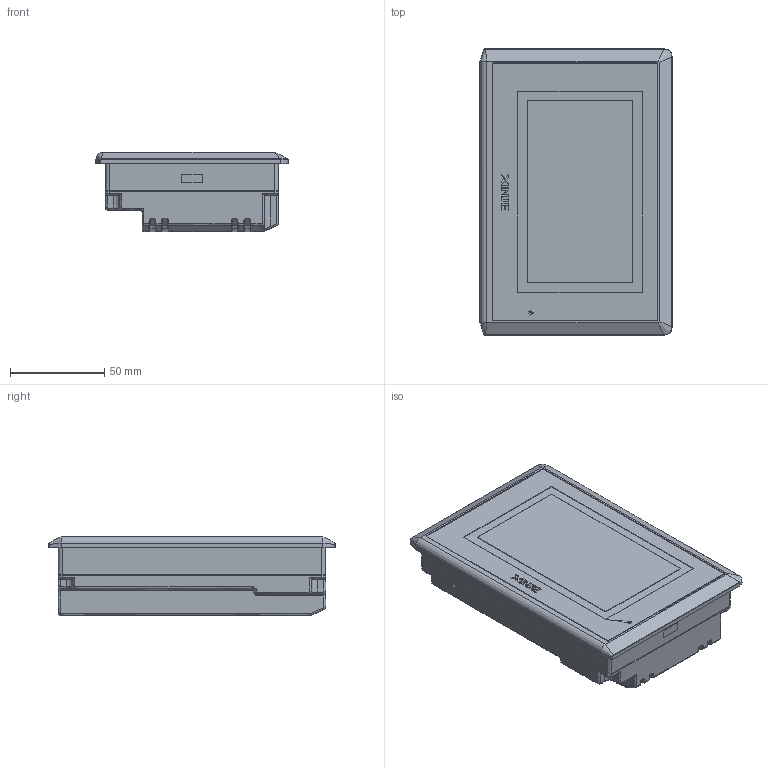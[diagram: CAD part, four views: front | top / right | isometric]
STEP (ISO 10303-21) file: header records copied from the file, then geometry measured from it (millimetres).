
FILE_DESCRIPTION(/* description */ (''),/* implementation_level */ '2;1');
FILE_NAME(/* name */ 'TGM465-ET',/* time_stamp */ '2023-03-02T16:57:04+08:00',/* author */ (''),/* organization */ (''),/* preprocessor_version */ 'ST-DEVELOPER v16.5',/* originating_system */ '',/* authorisation */ '');
FILE_SCHEMA (('AUTOMOTIVE_DESIGN'));
Length unit declared in the file: millimetre
Products named in the file (2): Document; wireframe_rep_0
Assembly tree (1 placements, depth 2):
  Document
    wireframe_rep_0
Bounding box: 102 x 152 x 42 mm (x, y, z)
Volume: 272134.6 mm3; surface area: 110440.4 mm2
Topology: 5 solids, 594 shells, 830 faces, 3505 edges, 3268 vertices
Faces by surface type: bspline 541, plane 289
Entity records: 45448 total; most frequent: CARTESIAN_POINT 26831, ORIENTED_EDGE 4124, EDGE_CURVE 3460, VERTEX_POINT 3233, B_SPLINE_CURVE_WITH_KNOTS 2380, EDGE_LOOP 887, ADVANCED_FACE 830, FACE_OUTER_BOUND 830
